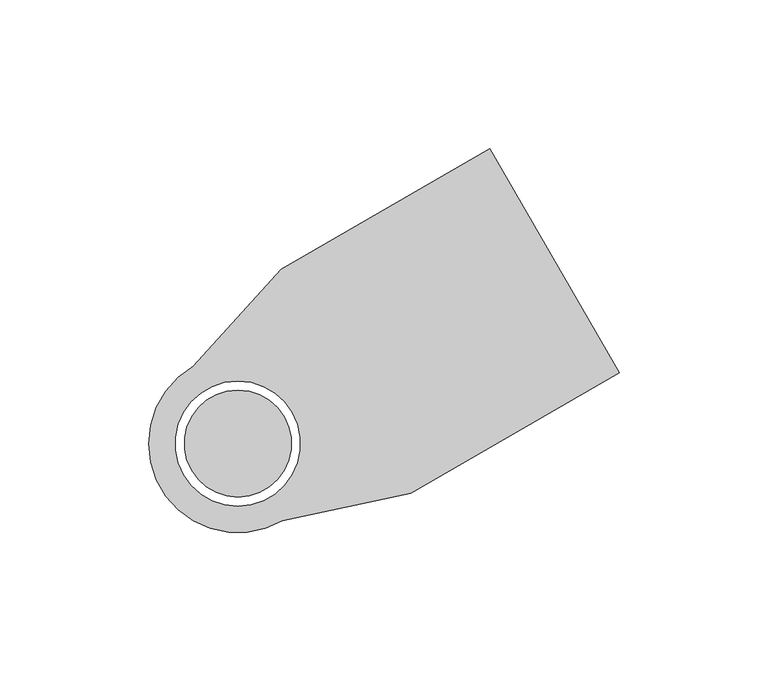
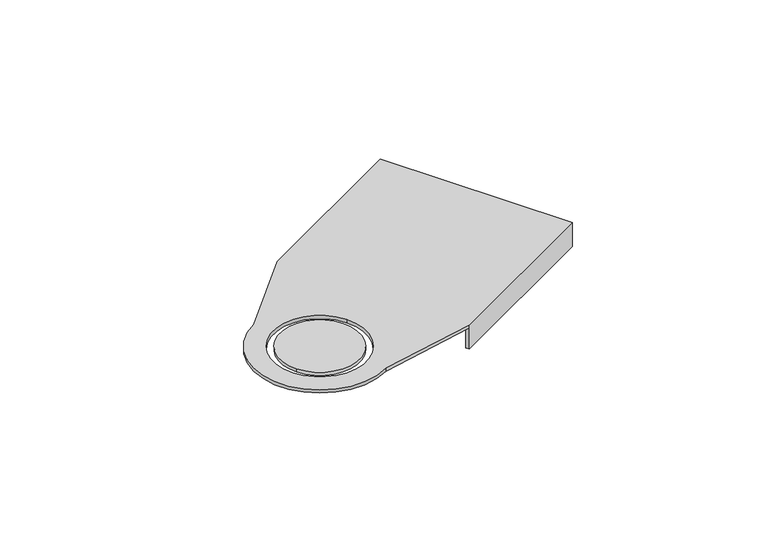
"""IFC4 building model written with IfcOpenShell, lengths in millimetres: cable carrier fitting geometry, BAKS_BEND_Articulated connector_LGP : LGP_H100."""

from ifc_helpers import new_model, si_unit, frame, origin, place, context, project, spatial, polyline, circle_curve, source, transform, mapped, element, save
from ifc_brep_helpers import plane_surface, cylinder_surface, revolved_surface, advanced_brep


def cable_carrier_fitting_83230dc4(model_context):
    return source(origin(), model_context, "Body", "AdvancedBrep", [
        advanced_brep(
        [(84.7711247, 99.1721051, 1.5), (14.623067, 58.6721051, 1.5), (-15.0, 25.9807621, 1.5), (15.0, -25.9807621, 1.5), (58.123067, -16.6721051, 1.5), (128.2711247, 23.8278949, 1.5), (-18.1865335, -10.5, 1.5), (18.1865335, 10.5, 1.5), (58.123067, -16.6721051, 0.0), (15.0, -25.9807621, 0.0), (-15.0, 25.9807621, 0.0), (14.623067, 58.6721051, 0.0), (15.373067, 57.373067, 0.0), (85.5211247, 97.873067, 0.0), (127.5211247, 25.126933, 0.0), (57.373067, -15.373067, 0.0), (18.1865335, 10.5, 0.0), (-18.1865335, -10.5, 0.0), (84.7711247, 99.1721051, -10.0), (14.623067, 58.6721051, -10.0), (58.123067, -16.6721051, -10.0), (128.2711247, 23.8278949, -10.0), (127.5211247, 25.126933, -10.0), (85.5211247, 97.873067, -10.0), (57.373067, -15.373067, -10.0), (15.373067, 57.373067, -10.0)],
        [
            (0, 1),
            (1, 2),
            (2, 3, circle_curve(frame((0.0, 0.0, 1.5), z_axis=(0.0, 0.0, 1.0), x_axis=(0.8660254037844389, 0.4999999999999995, 0.0)), 30.0)),
            (3, 4),
            (4, 5),
            (5, 0),
            (6, 7, circle_curve(frame((0.0, 0.0, 1.5), z_axis=(0.0, 0.0, -1.0), x_axis=(0.8660254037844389, 0.4999999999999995, 0.0)), 21.0)),
            (7, 6, circle_curve(frame((0.0, 0.0, 1.5), z_axis=(0.0, 0.0, -1.0), x_axis=(0.8660254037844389, 0.4999999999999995, 0.0)), 21.0)),
            (8, 9),
            (9, 10, circle_curve(frame((0.0, 0.0, 0.0), z_axis=(0.0, 0.0, -1.0), x_axis=(0.8660254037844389, 0.4999999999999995, 0.0)), 30.0)),
            (10, 11),
            (11, 12),
            (12, 13),
            (13, 14),
            (14, 15),
            (15, 8),
            (16, 17, circle_curve(frame((0.0, 0.0, 0.0), z_axis=(0.0, 0.0, 1.0), x_axis=(0.8660254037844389, 0.4999999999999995, 0.0)), 21.0)),
            (17, 16, circle_curve(frame((0.0, 0.0, 0.0), z_axis=(0.0, 0.0, 1.0), x_axis=(0.8660254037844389, 0.4999999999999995, 0.0)), 21.0)),
            (0, 18),
            (18, 19),
            (19, 11),
            (11, 1),
            (4, 8),
            (8, 20),
            (20, 21),
            (21, 5),
            (21, 22),
            (22, 14),
            (13, 23),
            (23, 18),
            (6, 17),
            (16, 7),
            (10, 2),
            (9, 3),
            (20, 24),
            (24, 22),
            (24, 15),
            (23, 25),
            (25, 19),
            (25, 12),
        ],
        [
            plane_surface(frame((14.623067, 58.6721051, 1.5), z_axis=(0.0, 0.0, 1.0), x_axis=(-0.8660254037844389, -0.4999999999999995, 0.0))),
            plane_surface(frame((14.623067, 58.6721051, 0.0), z_axis=(0.0, 0.0, -1.0), x_axis=(0.8660254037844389, 0.4999999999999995, 0.0))),
            plane_surface(frame((84.7711247, 99.1721051, 1.5), z_axis=(-0.4999999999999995, 0.8660254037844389, 0.0), x_axis=(0.0, 0.0, -1.0))),
            plane_surface(frame((58.123067, -16.6721051, 1.5), z_axis=(0.4999999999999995, -0.8660254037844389, 0.0), x_axis=(0.0, 0.0, -1.0))),
            plane_surface(frame((128.2711247, 23.8278949, 1.5), z_axis=(0.8660254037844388, 0.49999999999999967, 0.0), x_axis=(0.0, 0.0, -1.0))),
            revolved_surface(polyline([(18.18653347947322, 10.49999999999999, 1.5), (18.18653347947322, 10.49999999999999, 0.0)]), (0.0, 0.0, 0.0), (0.0, 0.0, 1.0)),
            plane_surface(frame((14.623067, 58.6721051, 1.5), z_axis=(-0.7410260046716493, 0.67147632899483, 0.0), x_axis=(0.0, 0.0, -1.0))),
            cylinder_surface(frame((0.0, 0.0, 0.0), z_axis=(0.0, 0.0, 1.0), x_axis=(0.8660254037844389, 0.4999999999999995, 0.0)), 30.0),
            plane_surface(frame((15.0, -25.9807621, 1.5), z_axis=(0.21100255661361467, -0.9774855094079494, 0.0), x_axis=(0.0, 0.0, -1.0))),
            plane_surface(frame((57.373067, -15.373067, -10.0), z_axis=(0.0, 0.0, -1.0), x_axis=(0.8660254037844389, 0.4999999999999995, 0.0))),
            plane_surface(frame((127.5211247, 25.126933, 0.0), z_axis=(-0.4999999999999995, 0.8660254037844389, 0.0), x_axis=(0.0, 0.0, -1.0))),
            plane_surface(frame((57.373067, -15.373067, 0.0), z_axis=(-0.8660254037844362, -0.5000000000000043, 0.0), x_axis=(0.0, 0.0, -1.0))),
            plane_surface(frame((14.623067, 58.6721051, -10.0), z_axis=(0.0, 0.0, -1.0), x_axis=(0.8660254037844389, 0.4999999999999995, 0.0))),
            plane_surface(frame((14.623067, 58.6721051, 0.0), z_axis=(-0.8660254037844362, -0.5000000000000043, 0.0), x_axis=(0.0, 0.0, -1.0))),
            plane_surface(frame((15.373067, 57.373067, 0.0), z_axis=(0.4999999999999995, -0.8660254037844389, 0.0), x_axis=(0.0, 0.0, -1.0))),
        ],
        [
            (0, [[1, 2, 3, 4, 5, 6], [7, 8]]),
            (1, [[9, 10, 11, 12, 13, 14, 15, 16], [17, 18]]),
            (2, [[-1, 19, 20, 21, 22]]),
            (3, [[-5, 23, 24, 25, 26]]),
            (4, [[-19, -6, -26, 27, 28, -14, 29, 30]]),
            (5, [[31, -17, 32, -7]]),
            (5, [[-31, -8, -32, -18]]),
            (6, [[-2, -22, -11, 33]]),
            (7, [[-3, -33, -10, 34]]),
            (8, [[-4, -34, -9, -23]]),
            (9, [[-27, -25, 35, 36]]),
            (10, [[-36, 37, -15, -28]]),
            (11, [[-35, -24, -16, -37]]),
            (12, [[-30, 38, 39, -20]]),
            (13, [[-39, 40, -12, -21]]),
            (14, [[-38, -29, -13, -40]]),
        ],
    ),
        advanced_brep(
        [(-15.5884573, -9.0, 1.5), (15.5884573, 9.0, 1.5), (15.5884573, 9.0, 0.0), (-15.5884573, -9.0, 0.0)],
        [
            (0, 1, circle_curve(frame((0.0, 0.0, 1.5), z_axis=(0.0, 0.0, 1.0), x_axis=(0.8660254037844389, 0.4999999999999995, 0.0)), 18.0)),
            (1, 0, circle_curve(frame((0.0, 0.0, 1.5), z_axis=(0.0, 0.0, 1.0), x_axis=(0.8660254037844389, 0.4999999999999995, 0.0)), 18.0)),
            (2, 3, circle_curve(frame((0.0, 0.0, 0.0), z_axis=(0.0, 0.0, -1.0), x_axis=(0.8660254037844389, 0.4999999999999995, 0.0)), 18.0)),
            (3, 2, circle_curve(frame((0.0, 0.0, 0.0), z_axis=(0.0, 0.0, -1.0), x_axis=(0.8660254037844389, 0.4999999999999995, 0.0)), 18.0)),
            (0, 3),
            (2, 1),
        ],
        [
            plane_surface(frame((14.623067, 58.6721051, 1.5), z_axis=(0.0, 0.0, 1.0), x_axis=(-0.8660254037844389, -0.4999999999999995, 0.0))),
            plane_surface(frame((14.623067, 58.6721051, 0.0), z_axis=(0.0, 0.0, -1.0), x_axis=(0.8660254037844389, 0.4999999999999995, 0.0))),
            cylinder_surface(frame((0.0, 0.0, 0.0), z_axis=(0.0, 0.0, -1.0), x_axis=(0.8660254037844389, 0.4999999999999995, 0.0)), 18.0),
        ],
        [
            (0, [[1, 2]]),
            (1, [[3, 4]]),
            (2, [[5, -3, 6, -1]]),
            (2, [[-5, -2, -6, -4]]),
        ],
    ),
    ])


if __name__ == "__main__":
    model = new_model("IFC4")
    model_context = context("Model", 3, world=origin())
    ifc_project = project(units=[si_unit("LENGTHUNIT", "METRE", prefix="MILLI")], contexts=[model_context])
    site = spatial("IfcSite", under=ifc_project)
    building = spatial("IfcBuilding", under=site)
    placement = place(None, origin())
    cable_carrier_fitting_shape = cable_carrier_fitting_83230dc4(model_context)
    element("IfcCableCarrierFitting", 1, ObjectType="BAKS_BEND_Articulated connector_LGP : LGP_H100", at=placement, inside=building, context=model_context, shape_type="MappedRepresentation", body=[
        mapped(cable_carrier_fitting_shape, transform((0.0, 0.0, 0.0), x_axis=(1.0, 0.0, 0.0), y_axis=(0.0, 1.0, 0.0), z_axis=(0.0, 0.0, 1.0))),
    ])
    save(model, "model.ifc")
